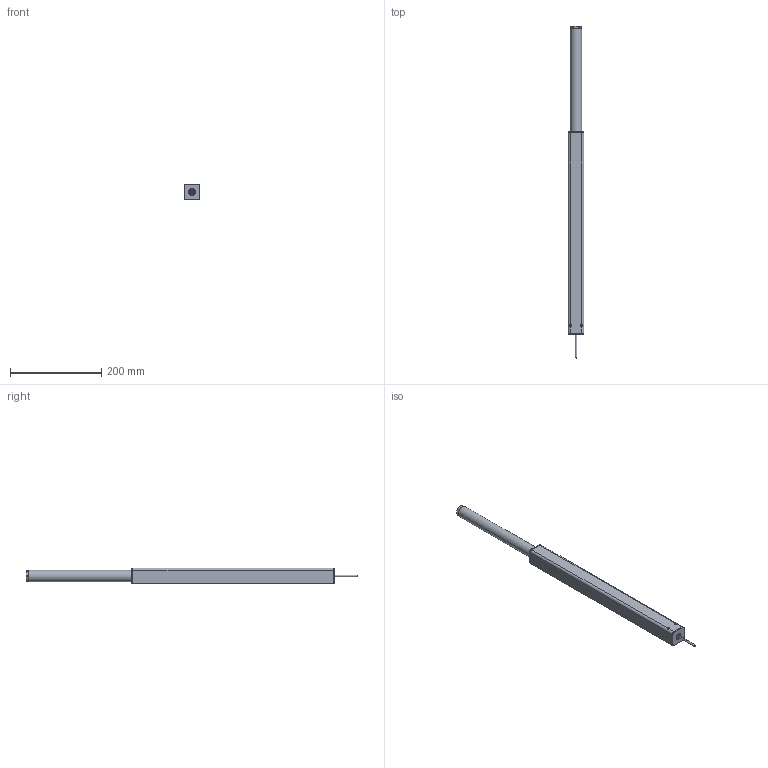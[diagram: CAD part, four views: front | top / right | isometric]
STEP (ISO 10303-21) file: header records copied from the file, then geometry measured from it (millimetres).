
FILE_DESCRIPTION(/* description */ ('Unknown'),/* implementation_level */ '2;1');
FILE_NAME(/* name */ '106.20012 Lineareinheit LA 1820 V_ausgefahren',/* time_stamp */ '2017-09-29T13:19:36+02:00',/* author */ ('Unknown'),/* organization */ ('Unknown'),/* preprocessor_version */ 'ST-DEVELOPER v16.7',/* originating_system */ 'DEX',/* authorisation */ $);
FILE_SCHEMA (('AUTOMOTIVE_DESIGN {1 0 10303 214 3 1 1}'));
Products named in the file (11): 106.20012; 119.00003; 142.00014; 125.00021; 115.00008; 115.00125; 142.00234; 122.00018; 125.00051; 123.00003; 113.00002_70mm
Assembly tree (11 placements, depth 2):
  106.20012
    119.00003
    142.00014  x2
    125.00021
    115.00008
    115.00125
    142.00234
    122.00018
    125.00051
    123.00003
    113.00002_70mm
Bounding box: 35 x 727.5 x 35 mm (x, y, z)
Volume: 307311.8 mm3; surface area: 208648.8 mm2
Topology: 9 solids, 9 shells, 798 faces, 1872 edges, 1117 vertices
Faces by surface type: cylinder 276, bspline 224, plane 213, cone 45, torus 28, sphere 12
Full cylindrical faces by diameter (mm): 2.2 x1, 4 x7, 4.1 x1, 4.134 x4, 6.647 x1, 8 x2, 8.376 x1, 12 x1, 17.3 x1, 19 x1, 20.8 x3, 21 x1, 25 x1, 28.3 x1, 30.4 x1, 30.63 x1
Entity records: 75599 total; most frequent: CARTESIAN_POINT 59292, ORIENTED_EDGE 3512, DIRECTION 2637, EDGE_CURVE 1756, VERTEX_POINT 1070, AXIS2_PLACEMENT_3D 1022, EDGE_LOOP 890, FACE_BOUND 890
